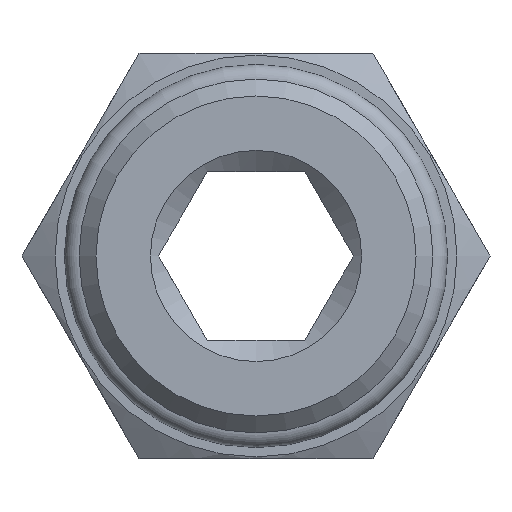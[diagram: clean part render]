
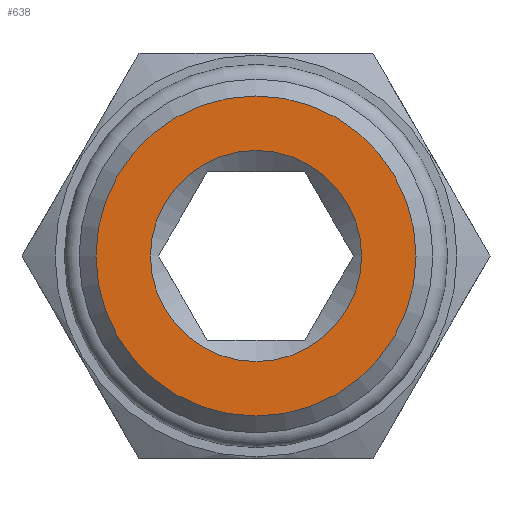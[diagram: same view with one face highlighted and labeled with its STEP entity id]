
A CAD part, front view. The second image highlights one B-rep face of the part: STEP entity #638.
In plain terms, the highlighted planar face has unit normal (0, -1, 0).
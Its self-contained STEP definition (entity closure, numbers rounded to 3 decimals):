
#48=FACE_BOUND('',#127,.T.);
#55=PLANE('',#713);
#87=FACE_OUTER_BOUND('',#126,.T.);
#126=EDGE_LOOP('',(#459));
#127=EDGE_LOOP('',(#460,#461));
#233=CIRCLE('',#707,9.478);
#238=CIRCLE('',#714,6.25);
#239=CIRCLE('',#715,6.25);
#271=VERTEX_POINT('',#984);
#276=VERTEX_POINT('',#998);
#277=VERTEX_POINT('',#999);
#342=EDGE_CURVE('',#271,#271,#233,.T.);
#349=EDGE_CURVE('',#276,#277,#238,.T.);
#350=EDGE_CURVE('',#277,#276,#239,.T.);
#459=ORIENTED_EDGE('',*,*,#342,.F.);
#460=ORIENTED_EDGE('',*,*,#349,.F.);
#461=ORIENTED_EDGE('',*,*,#350,.F.);
#638=ADVANCED_FACE('',(#87,#48),#55,.T.);
#707=AXIS2_PLACEMENT_3D('',#985,#807,#808);
#713=AXIS2_PLACEMENT_3D('',#997,#821,#822);
#714=AXIS2_PLACEMENT_3D('',#1000,#823,#824);
#715=AXIS2_PLACEMENT_3D('',#1001,#825,#826);
#807=DIRECTION('center_axis',(0.,1.,0.));
#808=DIRECTION('ref_axis',(-1.,0.,0.));
#821=DIRECTION('center_axis',(0.,-1.,0.));
#822=DIRECTION('ref_axis',(0.,0.,-1.));
#823=DIRECTION('center_axis',(0.,-1.,0.));
#824=DIRECTION('ref_axis',(1.,0.,0.));
#825=DIRECTION('center_axis',(0.,-1.,0.));
#826=DIRECTION('ref_axis',(1.,0.,0.));
#984=CARTESIAN_POINT('',(9.478,0.,0.));
#985=CARTESIAN_POINT('Origin',(0.,0.,0.));
#997=CARTESIAN_POINT('Origin',(6.25,0.,0.));
#998=CARTESIAN_POINT('',(6.25,0.,0.));
#999=CARTESIAN_POINT('',(-6.25,0.,0.));
#1000=CARTESIAN_POINT('Origin',(0.,0.,0.));
#1001=CARTESIAN_POINT('Origin',(0.,0.,0.));
